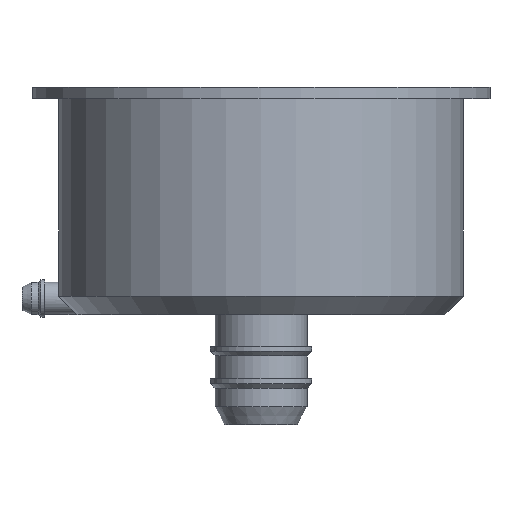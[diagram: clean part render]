
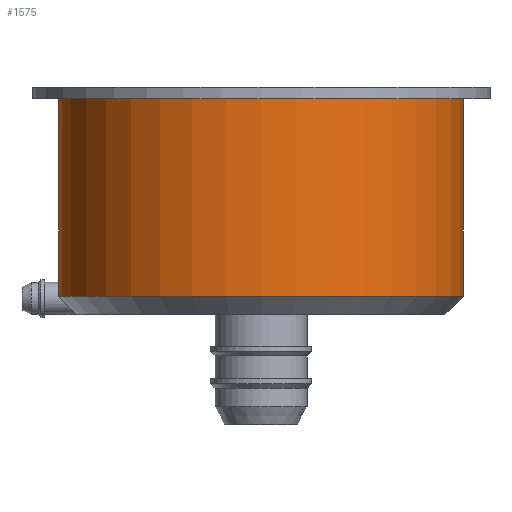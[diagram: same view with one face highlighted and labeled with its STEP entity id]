
A CAD part, left-side view. The second image highlights one B-rep face of the part: STEP entity #1575.
In plain terms, the highlighted cylindrical face has radius 22 mm (diameter 44 mm), a partial arc.
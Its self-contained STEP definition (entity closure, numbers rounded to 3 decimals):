
#27=CYLINDRICAL_SURFACE('',#1740,22.);
#160=FACE_OUTER_BOUND('',#281,.T.);
#281=EDGE_LOOP('',(#1189,#1190,#1191,#1192));
#403=LINE('',#2580,#509);
#418=LINE('',#2646,#524);
#509=VECTOR('',#1992,10.);
#524=VECTOR('',#2069,10.);
#633=CIRCLE('',#1734,22.);
#636=CIRCLE('',#1741,22.);
#740=VERTEX_POINT('',#2577);
#741=VERTEX_POINT('',#2579);
#758=VERTEX_POINT('',#2630);
#761=VERTEX_POINT('',#2645);
#887=EDGE_CURVE('',#741,#740,#403,.T.);
#912=EDGE_CURVE('',#758,#740,#633,.T.);
#919=EDGE_CURVE('',#761,#758,#418,.T.);
#920=EDGE_CURVE('',#741,#761,#636,.T.);
#1189=ORIENTED_EDGE('',*,*,#912,.F.);
#1190=ORIENTED_EDGE('',*,*,#919,.F.);
#1191=ORIENTED_EDGE('',*,*,#920,.F.);
#1192=ORIENTED_EDGE('',*,*,#887,.T.);
#1575=ADVANCED_FACE('',(#160),#27,.T.);
#1734=AXIS2_PLACEMENT_3D('',#2632,#2051,#2052);
#1740=AXIS2_PLACEMENT_3D('',#2644,#2067,#2068);
#1741=AXIS2_PLACEMENT_3D('',#2647,#2070,#2071);
#1992=DIRECTION('',(0.,0.,-1.));
#2051=DIRECTION('center_axis',(0.,0.,-1.));
#2052=DIRECTION('ref_axis',(0.,1.,0.));
#2067=DIRECTION('center_axis',(0.,0.,-1.));
#2068=DIRECTION('ref_axis',(0.,1.,0.));
#2069=DIRECTION('',(0.,0.,-1.));
#2070=DIRECTION('center_axis',(0.,0.,1.));
#2071=DIRECTION('ref_axis',(0.,1.,0.));
#2577=CARTESIAN_POINT('',(-38.,-119.,77.25));
#2579=CARTESIAN_POINT('',(-38.,-119.,98.75));
#2580=CARTESIAN_POINT('',(-38.,-119.,98.75));
#2630=CARTESIAN_POINT('',(-38.,-163.,77.25));
#2632=CARTESIAN_POINT('Origin',(-38.,-141.,77.25));
#2644=CARTESIAN_POINT('Origin',(-38.,-141.,98.75));
#2645=CARTESIAN_POINT('',(-38.,-163.,98.75));
#2646=CARTESIAN_POINT('',(-38.,-163.,98.75));
#2647=CARTESIAN_POINT('Origin',(-38.,-141.,98.75));
